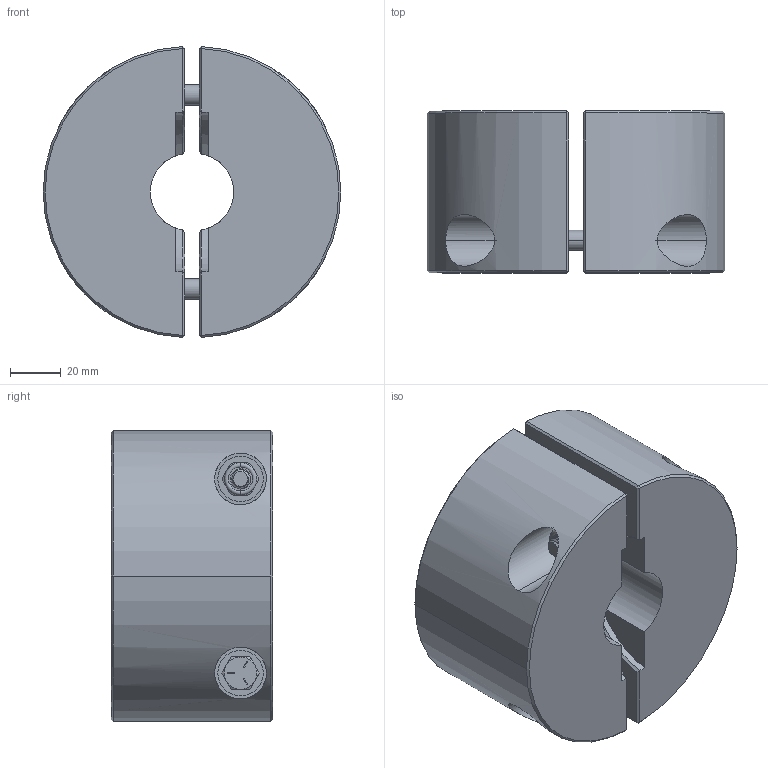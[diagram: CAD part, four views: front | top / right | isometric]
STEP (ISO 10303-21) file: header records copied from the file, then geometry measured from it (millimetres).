
FILE_DESCRIPTION (( 'STEP AP214' ), '1' );
FILE_NAME ('OZHB10-SR.STEP', '2026-07-09T15:47:03', ( '' ), ( '' ), 'SwSTEP 2.0', 'SolidWorks 2023', '' );
FILE_SCHEMA (( 'AUTOMOTIVE_DESIGN' ));
Length unit declared in the file: inch
Products named in the file (7): 210-03118-034_95615A160; 294-4001; 294-4000; 100-03118-200_91247A591; OZHB10-SR; 400-03100-000; 294-0301
Assembly tree (12 placements, depth 4):
  OZHB10-SR
    294-4000
      294-0301  x2
      294-4001
        100-03118-200_91247A591  x2
        210-03118-034_95615A160  x2
        400-03100-000  x4
Bounding box: 116.84 x 63.5 x 114.2 mm (x, y, z)
Volume: 547230.3 mm3; surface area: 71038.6 mm2
Topology: 12 solids, 12 shells, 362 faces, 908 edges, 582 vertices
Faces by surface type: cylinder 172, plane 104, cone 58, bspline 16, torus 12
Entity records: 9544 total; most frequent: CARTESIAN_POINT 5397, ORIENTED_EDGE 884, DIRECTION 758, EDGE_CURVE 442, AXIS2_PLACEMENT_3D 302, VERTEX_POINT 283, EDGE_LOOP 191, ADVANCED_FACE 175
